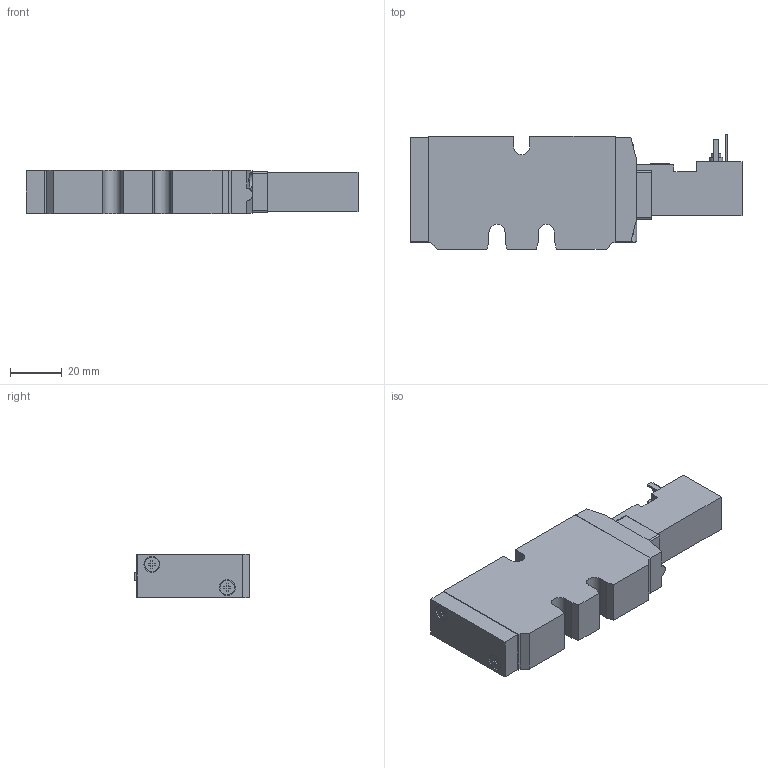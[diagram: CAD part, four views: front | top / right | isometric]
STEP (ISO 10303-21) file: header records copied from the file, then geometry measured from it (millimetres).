
FILE_DESCRIPTION((''),'2;1');
FILE_NAME('0820060851','2023-06-22T10:47:03',('THD3HC'),(''),'CREO PARAMETRIC BY PTC INC, 2020044','CREO PARAMETRIC BY PTC INC, 2020044','');
FILE_SCHEMA(('CONFIG_CONTROL_DESIGN','SHAPE_APPEARANCE_LAYERS_GROUPS'));
Length unit declared in the file: millimetre
Products named in the file (1): 0820060851
Bounding box: 127.8 x 44.1 x 16.8 mm (x, y, z)
Volume: 68890.6 mm3; surface area: 17240.3 mm2
Topology: 1 solids, 1 shells, 312 faces, 807 edges, 534 vertices
Faces by surface type: plane 254, cylinder 50, cone 8
Entity records: 14863 total; most frequent: CARTESIAN_POINT 1727, ORIENTED_EDGE 1614, DIRECTION 1531, PRESENTATION_STYLE_ASSIGNMENT 1092, STYLED_ITEM 912, CURVE_STYLE 807, EDGE_CURVE 807, VECTOR 691
